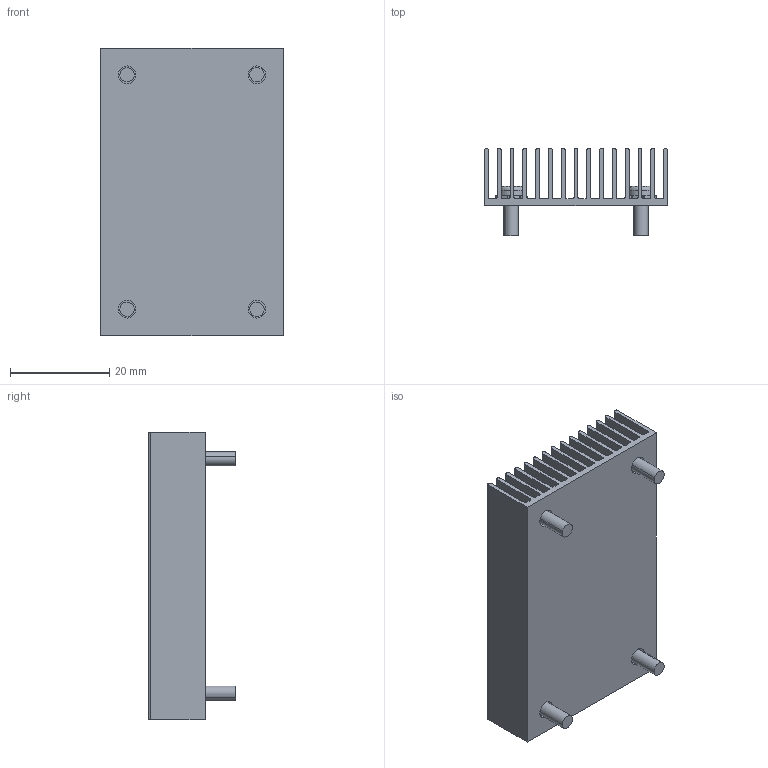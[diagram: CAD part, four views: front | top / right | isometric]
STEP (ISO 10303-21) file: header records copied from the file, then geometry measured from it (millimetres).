
FILE_DESCRIPTION (( 'STEP AP214' ), '1' );
FILE_NAME ('HS1568EBK08.STEP', '2023-03-03T15:52:29', ( '' ), ( '' ), 'SwSTEP 2.0', 'SolidWorks 2020', '' );
FILE_SCHEMA (( 'AUTOMOTIVE_DESIGN' ));
Length unit declared in the file: millimetre
Products named in the file (1): HS1568EBK08
Bounding box: 36.83 x 17.52 x 57.91 mm (x, y, z)
Volume: 9309.8 mm3; surface area: 21628.4 mm2
Topology: 5 solids, 5 shells, 534 faces, 1400 edges, 888 vertices
Faces by surface type: plane 371, cylinder 155, torus 8
Entity records: 23980 total; most frequent: CARTESIAN_POINT 4789, ORIENTED_EDGE 2800, DIRECTION 2700, EDGE_CURVE 1400, VECTOR 1026, LINE 1026, VERTEX_POINT 888, AXIS2_PLACEMENT_3D 837
